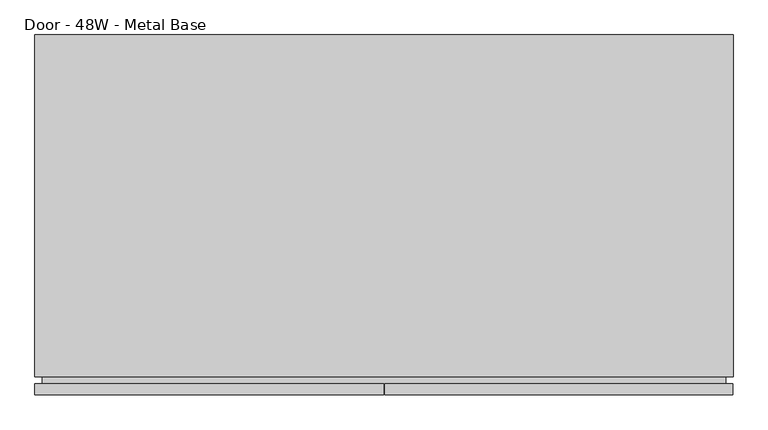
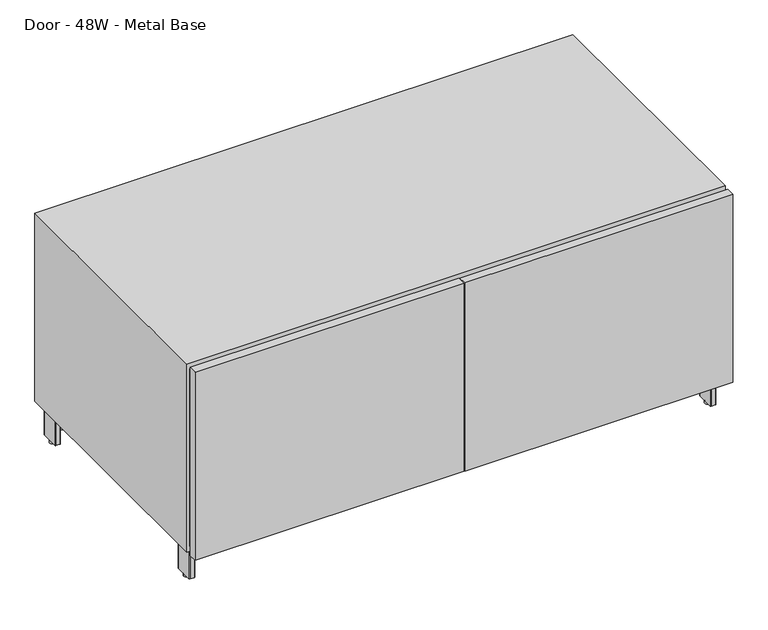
"""IFC4 building model written with IfcOpenShell, lengths in millimetres: furniture geometry, Steelcase Coalesse - Exponents - Storage - Credenza - 21H : Door - 48W - Metal Base."""

import ifcopenshell
import ifcopenshell.guid

model = None  # the IFC model being written
_history = None  # IfcOwnerHistory: only IFC2X3 demands one
_inside = {}  # id of a spatial element -> (the spatial element, [elements in it])
_under = {}  # id of a project, library or spatial element -> (it, [spatial elements below it])
_declared = {}  # id of a project -> (the project, [libraries it declares])
_typed = {}  # id of a type object -> (the type object, [elements of that type])
_made_of = {}  # id of a material, layer set ... -> (it, [elements and type objects made of it])


def new_model(schema):
    """Start an empty IFC model of exactly this schema.

    Asked for "IFC4X3", IfcOpenShell would pick the latest addendum, in which some entities
    have other attributes; the version numbers below select the first issue.
    IFC2X3 requires an IfcOwnerHistory on every rooted entity: one is made here for all.
    """
    global model, _history
    if schema == "IFC4X3":
        model = ifcopenshell.file(schema_version=(4, 3, 0, 0))
    else:
        model = ifcopenshell.file(schema=schema)
    _inside.clear()
    _under.clear()
    _declared.clear()
    _typed.clear()
    _made_of.clear()
    _history = None
    if model.schema == "IFC2X3":
        org = make("IfcOrganization", Name="unknown")
        user = make(
            "IfcPersonAndOrganization",
            ThePerson=make("IfcPerson", FamilyName="unknown"),
            TheOrganization=org,
        )
        app = make(
            "IfcApplication",
            ApplicationDeveloper=org,
            Version="unknown",
            ApplicationFullName="unknown",
            ApplicationIdentifier="unknown",
        )
        _history = make(
            "IfcOwnerHistory",
            OwningUser=user,
            OwningApplication=app,
            ChangeAction="ADDED",
            CreationDate=0,
        )
    return model


def make(cls, **values):
    """One entity of the class cls with the attributes given. An attribute that is None is left unset."""
    return model.create_entity(
        cls, **{name: value for name, value in values.items() if value is not None}
    )


def rooted(cls, **values):
    """An entity with a GlobalId (a new one), such as an element, a storey or a relation."""
    return make(cls, GlobalId=ifcopenshell.guid.new(), OwnerHistory=_history, **values)


def si_unit(unit_type, name, prefix=None):
    """IfcSIUnit, for example si_unit("LENGTHUNIT", "METRE", prefix="MILLI")."""
    return make("IfcSIUnit", UnitType=unit_type, Prefix=prefix, Name=name)


def assignment(units):
    """IfcUnitAssignment: the units of a project."""
    return None if units is None else make("IfcUnitAssignment", Units=units)


def point(xyz):
    """IfcCartesianPoint."""
    return None if xyz is None else make("IfcCartesianPoint", Coordinates=xyz)


def direction(xyz):
    """IfcDirection."""
    return None if xyz is None else make("IfcDirection", DirectionRatios=xyz)


def frame(location, z_axis=None, x_axis=None):
    """IfcAxis2Placement3D, a coordinate frame: its origin and axes. An axis left out is left unset."""
    return make(
        "IfcAxis2Placement3D",
        Location=point(location),
        Axis=direction(z_axis),
        RefDirection=direction(x_axis),
    )


def frame_2d(location, x_axis=None):
    """IfcAxis2Placement2D, a coordinate frame in the plane: its origin and x axis."""
    return make(
        "IfcAxis2Placement2D", Location=point(location), RefDirection=direction(x_axis)
    )


def origin():
    """The frame at (0, 0, 0) with its axes left unset."""
    return frame((0.0, 0.0, 0.0))


def origin_with_axes():
    """The frame at (0, 0, 0) with the z axis (0, 0, 1) and the x axis (1, 0, 0) written out."""
    return frame((0.0, 0.0, 0.0), z_axis=(0.0, 0.0, 1.0), x_axis=(1.0, 0.0, 0.0))


def place(relative_to, where):
    """IfcLocalPlacement: puts the frame where relative to a parent placement (None: the world)."""
    return make(
        "IfcLocalPlacement", PlacementRelTo=relative_to, RelativePlacement=where
    )


def context(
    kind, dimensions, precision=None, world=None, true_north=None, identifier=None
):
    """IfcGeometricRepresentationContext, for example the 3D "Model" context."""
    return make(
        "IfcGeometricRepresentationContext",
        ContextIdentifier=identifier,
        ContextType=kind,
        CoordinateSpaceDimension=dimensions,
        Precision=precision,
        WorldCoordinateSystem=world,
        TrueNorth=true_north,
    )


def project(units=None, contexts=None):
    """IfcProject with its units and contexts."""
    return rooted(
        "IfcProject",
        Name="project",
        RepresentationContexts=contexts,
        UnitsInContext=assignment(units),
    )


def spatial(cls, under=None, at=None, **own):
    """A site, building, storey or space (cls), placed at a placement, below another one or the project."""
    s = rooted(cls, ObjectPlacement=at, **own)
    if under is not None:
        _under.setdefault(under.id(), (under, []))[1].append(s)
    return s


def polyline(points):
    """IfcPolyline through the points."""
    return make("IfcPolyline", Points=[point(p) for p in points])


def circle_curve(where, radius):
    """IfcCircle in the frame where."""
    return make("IfcCircle", Position=where, Radius=radius)


def trimmed(basis, trim1, trim2, sense, master):
    """IfcTrimmedCurve: the piece of a basis curve between two trims."""
    return make(
        "IfcTrimmedCurve",
        BasisCurve=basis,
        Trim1=trim1,
        Trim2=trim2,
        SenseAgreement=sense,
        MasterRepresentation=master,
    )


def segment(curve, same_sense, transition):
    """IfcCompositeCurveSegment."""
    return make(
        "IfcCompositeCurveSegment",
        Transition=transition,
        SameSense=same_sense,
        ParentCurve=curve,
    )


def composite_curve(segments, self_intersect=None):
    """IfcCompositeCurve: segments joined end to end."""
    return make("IfcCompositeCurve", Segments=segments, SelfIntersect=self_intersect)


def outline(outer, holes=None, kind="AREA"):
    """IfcArbitraryClosedProfileDef: a profile drawn as a closed curve; with holes, ...WithVoids."""
    if holes is None:
        return make("IfcArbitraryClosedProfileDef", ProfileType=kind, OuterCurve=outer)
    return make(
        "IfcArbitraryProfileDefWithVoids",
        ProfileType=kind,
        OuterCurve=outer,
        InnerCurves=holes,
    )


def extrude(swept, where, along, depth):
    """IfcExtrudedAreaSolid: the profile swept, set in the frame where, extruded along a direction by depth."""
    return make(
        "IfcExtrudedAreaSolid",
        SweptArea=swept,
        Position=where,
        ExtrudedDirection=direction(along),
        Depth=depth,
    )


def faces_of(points, faces, orient=None, outer=None):
    """IfcFace entities. A face is a list of loops; a loop is a list of indices into points, from 0.

    orient and outer hold one flag for each loop. By default every Orientation is true, the
    first loop of a face is its IfcFaceOuterBound and the others are IfcFaceBound.
    """
    made = []
    for i, loops in enumerate(faces):
        bounds = []
        for j, loop in enumerate(loops):
            is_outer = j == 0 if outer is None else outer[i][j]
            bounds.append(
                make(
                    "IfcFaceOuterBound" if is_outer else "IfcFaceBound",
                    Bound=make("IfcPolyLoop", Polygon=[points[k] for k in loop]),
                    Orientation=True if orient is None else orient[i][j],
                )
            )
        made.append(make("IfcFace", Bounds=bounds))
    return made


def faceted_brep(points, faces, orient=None, outer=None, voids=None):
    """IfcFacetedBrep: a solid bounded by flat faces; with voids (closed shells), ...WithVoids."""
    shared = [point(p) for p in points]
    hull = make("IfcClosedShell", CfsFaces=faces_of(shared, faces, orient, outer))
    if voids is None:
        return make("IfcFacetedBrep", Outer=hull)
    return make(
        "IfcFacetedBrepWithVoids",
        Outer=hull,
        Voids=[
            make(cls, CfsFaces=faces_of(shared, fs, o, b)) for cls, fs, o, b in voids
        ],
    )


def shape(context_of_items, identifier, shape_type, items):
    """IfcShapeRepresentation: the items that make up one representation, for example the "Body"."""
    return make(
        "IfcShapeRepresentation",
        ContextOfItems=context_of_items,
        RepresentationIdentifier=identifier,
        RepresentationType=shape_type,
        Items=items,
    )


def source(mapping_origin, context_of_items, identifier, shape_type, items):
    """IfcRepresentationMap: a shape defined once, which mapped items show again and again."""
    return make(
        "IfcRepresentationMap",
        MappingOrigin=mapping_origin,
        MappedRepresentation=shape(context_of_items, identifier, shape_type, items),
    )


def transform(
    local_origin,
    x_axis=None,
    y_axis=None,
    z_axis=None,
    scale=None,
    scale2=None,
    scale3=None,
    uniform=True,
):
    """IfcCartesianTransformationOperator3D, or its non-uniform kind. x_axis, y_axis, z_axis: its Axis1, 2, 3."""
    if uniform:
        return make(
            "IfcCartesianTransformationOperator3D",
            Axis1=direction(x_axis),
            Axis2=direction(y_axis),
            LocalOrigin=point(local_origin),
            Scale=scale,
            Axis3=direction(z_axis),
        )
    return make(
        "IfcCartesianTransformationOperator3DnonUniform",
        Axis1=direction(x_axis),
        Axis2=direction(y_axis),
        LocalOrigin=point(local_origin),
        Scale=scale,
        Axis3=direction(z_axis),
        Scale2=scale2,
        Scale3=scale3,
    )


def mapped(mapping_source, mapping_target):
    """IfcMappedItem: shows the shape of a source again, moved by a transform."""
    return make(
        "IfcMappedItem", MappingSource=mapping_source, MappingTarget=mapping_target
    )


def made_of(thing, what):
    """Note that an element or type object is made of a material, layer set ...; save() writes the relation."""
    if what is not None:
        _made_of.setdefault(what.id(), (what, []))[1].append(thing)
    return thing


def element(
    cls,
    number,
    at=None,
    inside=None,
    cuts=None,
    type_object=None,
    material=None,
    context=None,
    identifier="Body",
    shape_type=None,
    held_by="IfcProductDefinitionShape",
    body=None,
    shapes=None,
    **own,
):
    """One element of the class cls, such as IfcWall. Its Tag is "e" and its number.

    at: its placement. inside: the storey or other place that contains it. cuts: it is an
    opening in that element (IfcRelVoidsElement). A single representation is given by context,
    identifier, shape_type and body (its items); several are given by shapes. held_by: the class
    of the entity that holds the representations. save() writes the other relations.
    """
    e = rooted(cls, Tag="e%d" % number, ObjectPlacement=at, **own)
    if body is not None:
        shapes = [shape(context, identifier, shape_type, body)]
    if shapes is not None:
        e.Representation = make(held_by, Representations=shapes)
    if inside is not None:
        _inside.setdefault(inside.id(), (inside, []))[1].append(e)
    if cuts is not None:
        rooted(
            "IfcRelVoidsElement", RelatingBuildingElement=cuts, RelatedOpeningElement=e
        )
    if type_object is not None:
        _typed.setdefault(type_object.id(), (type_object, []))[1].append(e)
    return made_of(e, material)


def aggregate(whole, parts):
    """IfcRelAggregates: a whole, such as a stair, and the parts it consists of."""
    return rooted("IfcRelAggregates", RelatingObject=whole, RelatedObjects=parts)


def save(model, path):
    """Write the relations noted so far, then the file.

    IfcRelAggregates (storeys below a building ...), IfcRelContainedInSpatialStructure (elements
    in a storey), IfcRelDefinesByType, IfcRelAssociatesMaterial and IfcRelDeclares: one each for
    every whole, place, type object, material and project.
    """
    for whole, parts in _under.values():
        aggregate(whole, parts)
    for where, things in _inside.values():
        rooted(
            "IfcRelContainedInSpatialStructure",
            RelatedElements=things,
            RelatingStructure=where,
        )
    for kind, things in _typed.values():
        rooted("IfcRelDefinesByType", RelatedObjects=things, RelatingType=kind)
    for what, things in _made_of.values():
        rooted("IfcRelAssociatesMaterial", RelatedObjects=things, RelatingMaterial=what)
    for by, libraries in _declared.values():
        rooted("IfcRelDeclares", RelatingContext=by, RelatedDefinitions=libraries)
    model.write(path)


def door_48w_metal_base_4d14ca97(model_context):
    return source(origin(), model_context, "Body", "SolidModel", [
        faceted_brep([(6.35, 31.75, 520.7), (6.35, 31.75, 95.25), (6.35, 622.3, 95.25), (6.35, 622.3, 520.7), (1212.85, 622.3, 95.25), (1212.85, 622.3, 520.7), (1212.85, 31.75, 95.25), (1212.85, 31.75, 520.7), (0.0, 31.75, 82.55), (1219.2, 31.75, 82.55), (1219.2, 31.75, 533.4), (0.0, 31.75, 533.4), (1219.2, 628.65, 82.55), (1219.2, 628.65, 533.4), (0.0, 628.65, 82.55), (0.0, 628.65, 533.4)], [[[0, 1, 2, 3]], [[3, 2, 4, 5]], [[5, 4, 6, 7]], [[8, 9, 10, 11], [7, 6, 1, 0]], [[10, 9, 12, 13]], [[13, 12, 14, 15]], [[15, 14, 8, 11]], [[7, 0, 3, 5]], [[10, 13, 15, 11]], [[1, 6, 4, 2]], [[12, 9, 8, 14]]]),
        extrude(outline(composite_curve([segment(polyline([(1195.5506426, 615.95), (1204.722, 615.95)]), True, "CONTINUOUS"), segment(trimmed(circle_curve(frame_2d((1204.722, 614.172)), 1.778), [point((1204.722, 615.95))], [point((1206.5, 614.172))], False, "CARTESIAN"), True, "CONTINUOUS"), segment(polyline([(1206.5, 614.172), (1206.5, 572.9986)]), True, "CONTINUOUS"), segment(trimmed(circle_curve(frame_2d((1204.722, 572.9986)), 1.778), [point((1206.5, 572.9986))], [point((1204.722, 571.2206))], False, "CARTESIAN"), True, "CONTINUOUS"), segment(polyline([(1204.722, 571.2206), (1195.5948916, 571.2206)]), True, "CONTINUOUS"), segment(trimmed(circle_curve(frame_2d((1195.5948916, 573.0154916)), 1.7948916), [point((1195.5948916, 571.2206))], [point((1193.8, 573.0154916))], False, "CARTESIAN"), True, "CONTINUOUS"), segment(polyline([(1193.8, 573.0154916), (1193.8, 614.1993574)]), True, "CONTINUOUS"), segment(trimmed(circle_curve(frame_2d((1195.5506426, 614.1993574)), 1.7506426), [point((1193.8, 614.1993574))], [point((1195.5506426, 615.95))], False, "CARTESIAN"), True, "CONTINUOUS")], self_intersect=False)), frame((0.0, 0.0, 6.35), z_axis=(0.0, 0.0, 1.0), x_axis=(1.0, 0.0, 0.0)), (0.0, 0.0, 1.0), 73.4568),
        extrude(outline(composite_curve([segment(polyline([(1195.5506426, 88.9), (1204.722, 88.9)]), True, "CONTINUOUS"), segment(trimmed(circle_curve(frame_2d((1204.722, 87.122)), 1.778), [point((1204.722, 88.9))], [point((1206.5, 87.122))], False, "CARTESIAN"), True, "CONTINUOUS"), segment(polyline([(1206.5, 87.122), (1206.5, 45.9486)]), True, "CONTINUOUS"), segment(trimmed(circle_curve(frame_2d((1204.722, 45.9486)), 1.778), [point((1206.5, 45.9486))], [point((1204.722, 44.1706))], False, "CARTESIAN"), True, "CONTINUOUS"), segment(polyline([(1204.722, 44.1706), (1195.5948916, 44.1706)]), True, "CONTINUOUS"), segment(trimmed(circle_curve(frame_2d((1195.5948916, 45.9654916)), 1.7948916), [point((1195.5948916, 44.1706))], [point((1193.8, 45.9654916))], False, "CARTESIAN"), True, "CONTINUOUS"), segment(polyline([(1193.8, 45.9654916), (1193.8, 87.1493574)]), True, "CONTINUOUS"), segment(trimmed(circle_curve(frame_2d((1195.5506426, 87.1493574)), 1.7506426), [point((1193.8, 87.1493574))], [point((1195.5506426, 88.9))], False, "CARTESIAN"), True, "CONTINUOUS")], self_intersect=False)), frame((0.0, 0.0, 6.35), z_axis=(0.0, 0.0, 1.0), x_axis=(1.0, 0.0, 0.0)), (0.0, 0.0, 1.0), 73.4568),
        extrude(outline(composite_curve([segment(trimmed(circle_curve(frame_2d((1200.15, 593.5667033)), 6.35), [point((1200.15, 599.9167033))], [point((1200.15, 587.2167033))], False, "CARTESIAN"), True, "CONTINUOUS"), segment(trimmed(circle_curve(frame_2d((1200.15, 593.5667033)), 6.35), [point((1200.15, 587.2167033))], [point((1200.15, 599.9167033))], False, "CARTESIAN"), True, "CONTINUOUS")], self_intersect=False)), origin_with_axes(), (0.0, 0.0, 1.0), 6.35),
        extrude(outline(composite_curve([segment(trimmed(circle_curve(frame_2d((1200.15, 66.7867854)), 6.35), [point((1200.15, 73.1367854))], [point((1200.15, 60.4367854))], False, "CARTESIAN"), True, "CONTINUOUS"), segment(trimmed(circle_curve(frame_2d((1200.15, 66.7867854)), 6.35), [point((1200.15, 60.4367854))], [point((1200.15, 73.1367854))], False, "CARTESIAN"), True, "CONTINUOUS")], self_intersect=False)), origin_with_axes(), (0.0, 0.0, 1.0), 6.35),
        extrude(outline(polyline([(520.7, 1206.5), (520.7, 12.7), (95.25, 12.7), (95.25, 1206.5), (520.7, 1206.5)]), holes=[polyline([(514.35, 1200.15), (101.6, 1200.15), (101.6, 19.05), (514.35, 19.05), (514.35, 1200.15)])]), frame((0.0, 19.05, 0.0), z_axis=(0.0, 1.0, 0.0), x_axis=(0.0, 0.0, 1.0)), (0.0, 0.0, 1.0), 31.75),
        extrude(outline(polyline([(610.8800308, 345.280854), (1193.8, 598.591626), (1193.8, 577.8206777), (623.9741031, 330.2), (1193.8, 82.5793223), (1193.8, 61.808374), (611.177267, 314.9899805), (617.6101738, 329.7934165), (610.8800308, 345.280854)])), frame((0.0, 0.0, 34.925), z_axis=(0.0, 0.0, 1.0), x_axis=(1.0, 0.0, 0.0)), (0.0, 0.0, 1.0), 44.8818),
        extrude(outline(polyline([(1212.85, 520.7), (1111.25, 520.7), (1111.25, 622.3), (1212.85, 622.3), (1212.85, 520.7)])), frame((0.0, 0.0, 79.8068), z_axis=(0.0, 0.0, 1.0), x_axis=(1.0, 0.0, 0.0)), (0.0, 0.0, 1.0), 2.7432),
        extrude(outline(polyline([(1212.85, 139.7), (1212.85, 38.1), (1111.25, 38.1), (1111.25, 139.7), (1212.85, 139.7)])), frame((0.0, 0.0, 79.8068), z_axis=(0.0, 0.0, 1.0), x_axis=(1.0, 0.0, 0.0)), (0.0, 0.0, 1.0), 2.7432),
        extrude(outline(composite_curve([segment(trimmed(circle_curve(frame_2d((23.6493574, 614.1993574)), 1.7506426), [point((23.6493574, 615.95))], [point((25.4, 614.1993574))], False, "CARTESIAN"), True, "CONTINUOUS"), segment(polyline([(25.4, 614.1993574), (25.4, 573.0154916)]), True, "CONTINUOUS"), segment(trimmed(circle_curve(frame_2d((23.6051084, 573.0154916)), 1.7948916), [point((25.4, 573.0154916))], [point((23.6051084, 571.2206))], False, "CARTESIAN"), True, "CONTINUOUS"), segment(polyline([(23.6051084, 571.2206), (14.478, 571.2206)]), True, "CONTINUOUS"), segment(trimmed(circle_curve(frame_2d((14.478, 572.9986)), 1.778), [point((14.478, 571.2206))], [point((12.7, 572.9986))], False, "CARTESIAN"), True, "CONTINUOUS"), segment(polyline([(12.7, 572.9986), (12.7, 614.172)]), True, "CONTINUOUS"), segment(trimmed(circle_curve(frame_2d((14.478, 614.172)), 1.778), [point((12.7, 614.172))], [point((14.478, 615.95))], False, "CARTESIAN"), True, "CONTINUOUS"), segment(polyline([(14.478, 615.95), (23.6493574, 615.95)]), True, "CONTINUOUS")], self_intersect=False)), frame((0.0, 0.0, 6.35), z_axis=(0.0, 0.0, 1.0), x_axis=(1.0, 0.0, 0.0)), (0.0, 0.0, 1.0), 73.4568),
        extrude(outline(composite_curve([segment(trimmed(circle_curve(frame_2d((23.6493574, 87.1493574)), 1.7506426), [point((23.6493574, 88.9))], [point((25.4, 87.1493574))], False, "CARTESIAN"), True, "CONTINUOUS"), segment(polyline([(25.4, 87.1493574), (25.4, 45.9654916)]), True, "CONTINUOUS"), segment(trimmed(circle_curve(frame_2d((23.6051084, 45.9654916)), 1.7948916), [point((25.4, 45.9654916))], [point((23.6051084, 44.1706))], False, "CARTESIAN"), True, "CONTINUOUS"), segment(polyline([(23.6051084, 44.1706), (14.478, 44.1706)]), True, "CONTINUOUS"), segment(trimmed(circle_curve(frame_2d((14.478, 45.9486)), 1.778), [point((14.478, 44.1706))], [point((12.7, 45.9486))], False, "CARTESIAN"), True, "CONTINUOUS"), segment(polyline([(12.7, 45.9486), (12.7, 87.122)]), True, "CONTINUOUS"), segment(trimmed(circle_curve(frame_2d((14.478, 87.122)), 1.778), [point((12.7, 87.122))], [point((14.478, 88.9))], False, "CARTESIAN"), True, "CONTINUOUS"), segment(polyline([(14.478, 88.9), (23.6493574, 88.9)]), True, "CONTINUOUS")], self_intersect=False)), frame((0.0, 0.0, 6.35), z_axis=(0.0, 0.0, 1.0), x_axis=(1.0, 0.0, 0.0)), (0.0, 0.0, 1.0), 73.4568),
        extrude(outline(composite_curve([segment(trimmed(circle_curve(frame_2d((617.3743574, 347.4993574)), 1.7506426), [point((617.3743574, 349.25))], [point((619.125, 347.4993574))], False, "CARTESIAN"), True, "CONTINUOUS"), segment(polyline([(619.125, 347.4993574), (619.125, 312.9448916)]), True, "CONTINUOUS"), segment(trimmed(circle_curve(frame_2d((617.3301084, 312.9448916)), 1.7948916), [point((619.125, 312.9448916))], [point((617.3301084, 311.15))], False, "CARTESIAN"), True, "CONTINUOUS"), segment(polyline([(617.3301084, 311.15), (601.853, 311.15)]), True, "CONTINUOUS"), segment(trimmed(circle_curve(frame_2d((601.853, 312.928)), 1.778), [point((601.853, 311.15))], [point((600.075, 312.928))], False, "CARTESIAN"), True, "CONTINUOUS"), segment(polyline([(600.075, 312.928), (600.075, 347.472)]), True, "CONTINUOUS"), segment(trimmed(circle_curve(frame_2d((601.853, 347.472)), 1.778), [point((600.075, 347.472))], [point((601.853, 349.25))], False, "CARTESIAN"), True, "CONTINUOUS"), segment(polyline([(601.853, 349.25), (617.3743574, 349.25)]), True, "CONTINUOUS")], self_intersect=False)), frame((0.0, 0.0, 6.35), z_axis=(0.0, 0.0, 1.0), x_axis=(1.0, 0.0, 0.0)), (0.0, 0.0, 1.0), 73.4568),
        extrude(outline(polyline([(608.3199692, 345.280854), (601.5898262, 329.7934165), (608.022733, 314.9899805), (25.4, 61.808374), (25.4, 82.5793223), (595.2258969, 330.2), (25.4, 577.8206777), (25.4, 598.591626), (608.3199692, 345.280854)])), frame((0.0, 0.0, 34.925), z_axis=(0.0, 0.0, 1.0), x_axis=(1.0, 0.0, 0.0)), (0.0, 0.0, 1.0), 44.8818),
        extrude(outline(polyline([(1218.4126, 19.05), (1218.4126, 0.0), (610.5652, 0.0), (610.5652, 19.05), (1218.4126, 19.05)])), frame((0.0, 0.0, 82.55), z_axis=(0.0, 0.0, 1.0), x_axis=(1.0, 0.0, 0.0)), (0.0, 0.0, 1.0), 450.85),
        extrude(outline(polyline([(6.35, 520.7), (6.35, 622.3), (107.95, 622.3), (107.95, 520.7), (6.35, 520.7)])), frame((0.0, 0.0, 79.8068), z_axis=(0.0, 0.0, 1.0), x_axis=(1.0, 0.0, 0.0)), (0.0, 0.0, 1.0), 2.7432),
        extrude(outline(polyline([(6.35, 139.7), (107.95, 139.7), (107.95, 38.1), (6.35, 38.1), (6.35, 139.7)])), frame((0.0, 0.0, 79.8068), z_axis=(0.0, 0.0, 1.0), x_axis=(1.0, 0.0, 0.0)), (0.0, 0.0, 1.0), 2.7432),
        extrude(outline(polyline([(558.8, 379.0696809), (660.4, 379.0696809), (660.4, 277.4696809), (558.8, 277.4696809), (558.8, 379.0696809)])), frame((0.0, 0.0, 79.8068), z_axis=(0.0, 0.0, 1.0), x_axis=(1.0, 0.0, 0.0)), (0.0, 0.0, 1.0), 2.7432),
        extrude(outline(polyline([(608.965, 19.05), (608.965, 0.0), (0.0, 0.0), (0.0, 19.05), (608.965, 19.05)])), frame((0.0, 0.0, 82.55), z_axis=(0.0, 0.0, 1.0), x_axis=(1.0, 0.0, 0.0)), (0.0, 0.0, 1.0), 450.85),
        extrude(outline(composite_curve([segment(trimmed(circle_curve(frame_2d((19.05, 593.5667033)), 6.35), [point((12.7, 593.5667033))], [point((25.4, 593.5667033))], False, "CARTESIAN"), True, "CONTINUOUS"), segment(trimmed(circle_curve(frame_2d((19.05, 593.5667033)), 6.35), [point((25.4, 593.5667033))], [point((12.7, 593.5667033))], False, "CARTESIAN"), True, "CONTINUOUS")], self_intersect=False)), origin_with_axes(), (0.0, 0.0, 1.0), 6.35),
        extrude(outline(composite_curve([segment(trimmed(circle_curve(frame_2d((19.05, 66.7867854)), 6.35), [point((12.7, 66.7867854))], [point((25.4, 66.7867854))], False, "CARTESIAN"), True, "CONTINUOUS"), segment(trimmed(circle_curve(frame_2d((19.05, 66.7867854)), 6.35), [point((25.4, 66.7867854))], [point((12.7, 66.7867854))], False, "CARTESIAN"), True, "CONTINUOUS")], self_intersect=False)), origin_with_axes(), (0.0, 0.0, 1.0), 6.35),
        extrude(outline(composite_curve([segment(trimmed(circle_curve(frame_2d((609.7749308, 330.5590189)), 6.35), [point((603.4249308, 330.5590189))], [point((616.1249308, 330.5590189))], False, "CARTESIAN"), True, "CONTINUOUS"), segment(trimmed(circle_curve(frame_2d((609.7749308, 330.5590189)), 6.35), [point((616.1249308, 330.5590189))], [point((603.4249308, 330.5590189))], False, "CARTESIAN"), True, "CONTINUOUS")], self_intersect=False)), origin_with_axes(), (0.0, 0.0, 1.0), 6.35),
        extrude(outline(polyline([(0.0, -19.05), (0.0, 0.0), (31.75, 0.0), (31.75, -19.05), (0.0, -19.05)])), frame((590.55, 19.05, 101.6), z_axis=(3.3608671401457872e-12, 0.0, 1.0), x_axis=(0.0, 1.0, 0.0)), (0.0, 0.0, 1.0), 412.75),
        extrude(outline(polyline([(590.55, 609.6), (609.6, 609.6), (609.6, 50.8), (590.55, 50.8), (590.55, 609.6)])), frame((0.0, 0.0, 95.25), z_axis=(0.0, 0.0, 1.0), x_axis=(1.0, 0.0, 0.0)), (0.0, 0.0, 1.0), 425.45),
    ])


if __name__ == "__main__":
    model = new_model("IFC4")
    model_context = context("Model", 3, world=origin())
    ifc_project = project(units=[si_unit("LENGTHUNIT", "METRE", prefix="MILLI")], contexts=[model_context])
    site = spatial("IfcSite", under=ifc_project)
    building = spatial("IfcBuilding", under=site)
    placement = place(None, origin())
    door_48w_metal_base_shape = door_48w_metal_base_4d14ca97(model_context)
    element("IfcFurniture", 1, ObjectType="Steelcase Coalesse - Exponents - Storage - Credenza - 21H : Door - 48W - Metal Base", at=placement, inside=building, context=model_context, shape_type="MappedRepresentation", body=[
        mapped(door_48w_metal_base_shape, transform((0.0, 0.0, 0.0), x_axis=(1.0, 0.0, 0.0), y_axis=(0.0, 1.0, 0.0), z_axis=(0.0, 0.0, 1.0))),
    ])
    save(model, "model.ifc")
